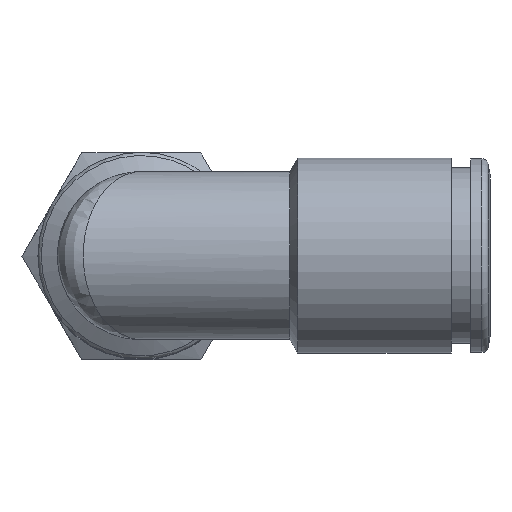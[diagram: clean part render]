
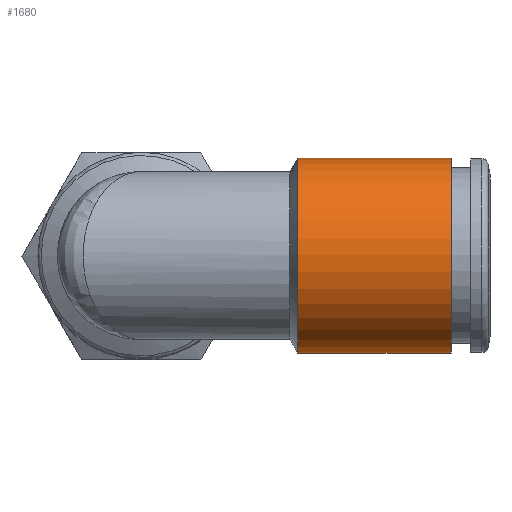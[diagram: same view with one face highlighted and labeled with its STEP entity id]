
A CAD part, top view. The second image highlights one B-rep face of the part: STEP entity #1680.
In plain terms, the highlighted cylindrical face has radius 7.55 mm (diameter 15.1 mm), a full revolution.
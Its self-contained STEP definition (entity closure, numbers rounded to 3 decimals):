
#1680=ADVANCED_FACE('', (#1690,#1700), #1710, .T.);
#5420=AXIS2_PLACEMENT_3D('Ax2Pl3d', #5430, #5440, #5450);
#6780=AXIS2_PLACEMENT_3D('Ax2Pl3d', #6790, #6800, #6810);
#6820=AXIS2_PLACEMENT_3D('Ax2Pl3d', #6830, #6840, #6850);
#5430=CARTESIAN_POINT('HicPkt', (39.247,17.943,
28.169));
#22550=CARTESIAN_POINT('', (39.247,17.943,35.719));
#6790=CARTESIAN_POINT('HicPkt', (27.353,17.943,
28.169));
#6830=CARTESIAN_POINT('HicPkt', (27.353,17.943,
28.169));
#22760=CARTESIAN_POINT('', (27.353,17.943,35.719));
#23550=CIRCLE('Circle', #5420, 7.55);
#23710=CIRCLE('Circle', #6820, 7.55);
#1710=CYLINDRICAL_SURFACE('Zyl', #6780, 7.55);
#5440=DIRECTION('Axis', (-1.,0.,0.))
;
#5450=DIRECTION('RefDirection', (0.,
0.,-1.));
#6800=DIRECTION('Axis', (1.,0.,0.));
#6810=DIRECTION('RefDirection', (0.,0.,-1.));
#6840=DIRECTION('Axis', (-1.,0.,0.))
;
#6850=DIRECTION('RefDirection', (0.,
0.,-1.));
#28130=EDGE_CURVE('', #28140, #28140, #23550, .T.);
#28680=EDGE_CURVE('', #28690, #28690, #23710, .T.);
#31650=EDGE_LOOP('Edge_loop', (#31660));
#31670=EDGE_LOOP('Edge_loop', (#31680));
#1700=FACE_BOUND('', #31670, .T.);
#1690=FACE_OUTER_BOUND('Face_outer_bound', #31650, .T.);
#31660=ORIENTED_EDGE('', *, *, #28130, .T.);
#31680=ORIENTED_EDGE('', *, *, #28680, .F.);
#28140=VERTEX_POINT('', #22550);
#28690=VERTEX_POINT('', #22760);
